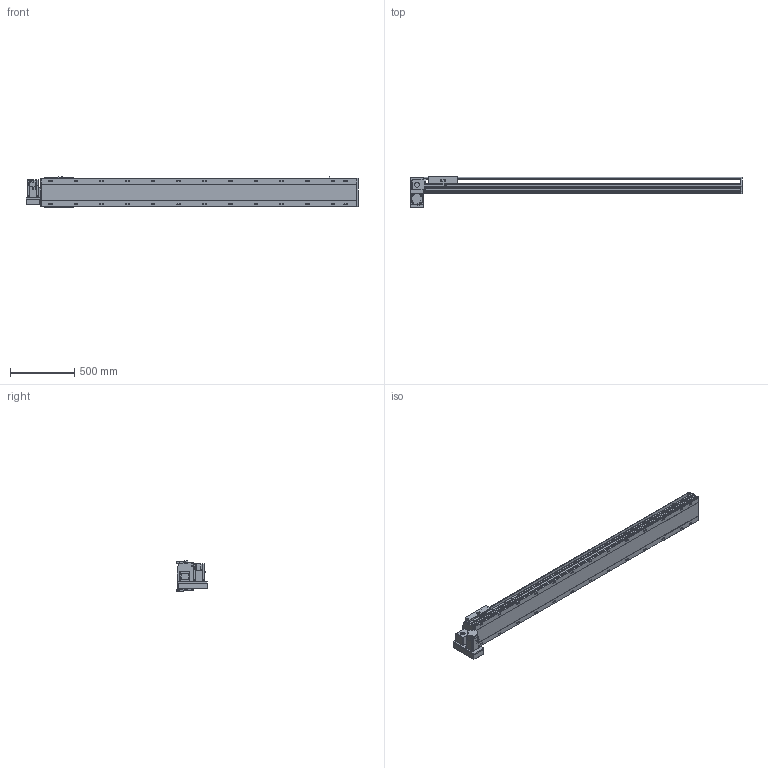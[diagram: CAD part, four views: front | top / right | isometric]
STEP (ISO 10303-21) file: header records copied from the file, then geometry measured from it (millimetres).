
FILE_DESCRIPTION(/* description */ ('STEP AP214'),/* implementation_level */ '2;1');
FILE_NAME(/* name */ 'PBS220-P40-S2100-LD-T75-C1-N(0)',/* time_stamp */ '2022-06-27T09:45:35+02:00',/* author */ ('License CC BY-ND 4.0'),/* organization */ ('CADENAS'),/* preprocessor_version */ 'ST-DEVELOPER v18.102',/* originating_system */ 'PARTsolutions',/* authorisation */ ' ');
FILE_SCHEMA (('AUTOMOTIVE_DESIGN {1 0 10303 214 3 1 1}'));
Length unit declared in the file: millimetre
Products named in the file (7): PBS220-P40-S2100-LD-T75-C1-N(0); PBS220_sensor; PBS220_plant; PBS220_sliser; T75-p1; PBS220T-LD_motors; PBS220-S2100()_body
Assembly tree (8 placements, depth 2):
  PBS220-P40-S2100-LD-T75-C1-N(0)
    PBS220_sensor  x3
    PBS220_plant
    PBS220_sliser
    T75-p1
    PBS220T-LD_motors
    PBS220-S2100()_body
Bounding box: 2584 x 239 x 238.5 mm (x, y, z)
Volume: 36269215.9 mm3; surface area: 3361706.3 mm2
Topology: 8 solids, 8 shells, 974 faces, 2536 edges, 1648 vertices
Faces by surface type: plane 618, cylinder 306, cone 50
Full cylindrical faces by diameter (mm): 2.013 x4, 4.5 x14, 4.917 x4, 6 x7, 6.647 x8, 8 x10, 8.376 x26, 8.5 x26, 10 x6, 14 x26, 38 x2, 40 x1, 70 x1
Entity records: 27188 total; most frequent: CARTESIAN_POINT 4822, DIRECTION 4725, ORIENTED_EDGE 4286, EDGE_CURVE 2143, AXIS2_PLACEMENT_3D 1685, VERTEX_POINT 1496, LINE 1355, VECTOR 1355
